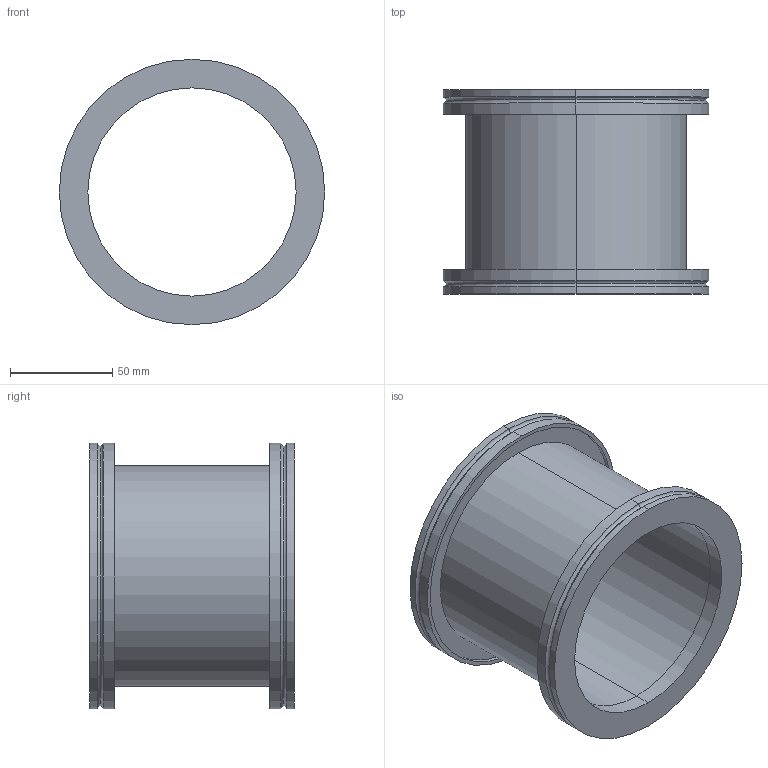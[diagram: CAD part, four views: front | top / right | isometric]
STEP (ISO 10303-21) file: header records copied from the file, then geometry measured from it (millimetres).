
FILE_DESCRIPTION (( 'STEP AP214' ), '1' );
FILE_NAME ('W4ZS100.STEP', '2020-06-09T07:36:26', ( '' ), ( '' ), 'SwSTEP 2.0', 'SolidWorks 2018', '' );
FILE_SCHEMA (( 'AUTOMOTIVE_DESIGN' ));
Length unit declared in the file: millimetre
Products named in the file (1): W4ZS100
Bounding box: 130 x 100 x 130 mm (x, y, z)
Volume: 181565.5 mm3; surface area: 97016.2 mm2
Topology: 3 solids, 3 shells, 42 faces, 84 edges, 52 vertices
Faces by surface type: cylinder 24, plane 10, torus 8
Entity records: 1176 total; most frequent: DIRECTION 230, CARTESIAN_POINT 179, ORIENTED_EDGE 168, AXIS2_PLACEMENT_3D 103, EDGE_CURVE 84, CIRCLE 60, EDGE_LOOP 52, VERTEX_POINT 52
